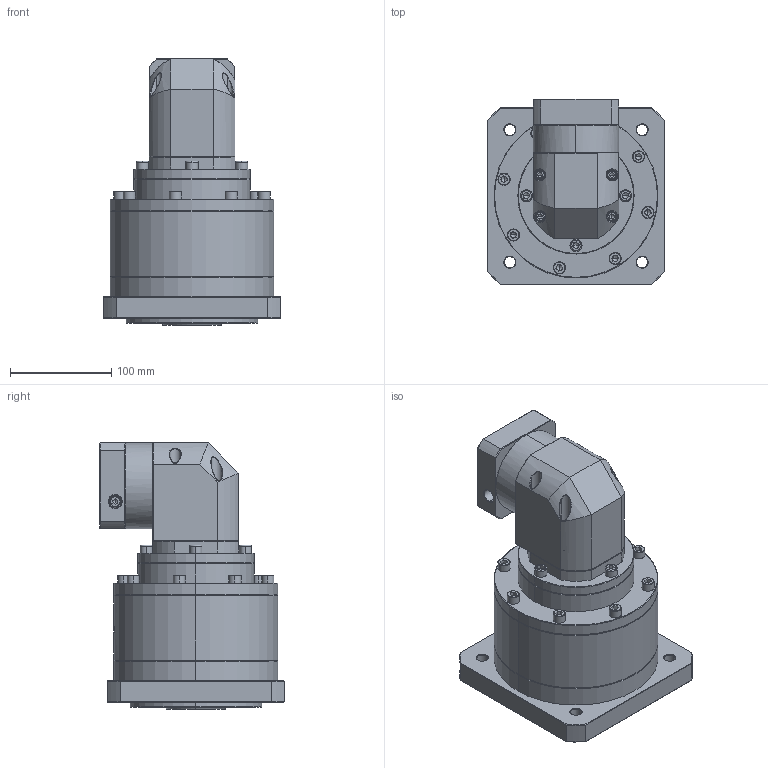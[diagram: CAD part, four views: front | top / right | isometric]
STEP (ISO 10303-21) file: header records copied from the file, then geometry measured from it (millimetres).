
FILE_DESCRIPTION (( 'STEP AP214' ), '1' );
FILE_NAME ('ZFR160A-K35-L3-P2-12.7-73-69.6X69.6-M6.step', '2023-09-03T10:05:43', ( '' ), ( '' ), 'SwSTEP 2.0', 'SolidWorks 2016', '' );
FILE_SCHEMA (( 'AUTOMOTIVE_DESIGN' ));
Length unit declared in the file: millimetre
Products named in the file (1): ZFR160A-K35-L3-P2-12.7-73-69.6X69.6-M6
Bounding box: 175 x 182.6 x 263.2 mm (x, y, z)
Volume: 3824362.1 mm3; surface area: 265100.3 mm2
Topology: 6 solids, 6 shells, 2541 faces, 6620 edges, 4206 vertices
Faces by surface type: plane 1233, cylinder 481, bspline 414, cone 355, torus 58
Entity records: 132253 total; most frequent: CARTESIAN_POINT 47195, ORIENTED_EDGE 13104, DIRECTION 10156, EDGE_CURVE 6552, VERTEX_POINT 4206, LINE 3560, VECTOR 3560, AXIS2_PLACEMENT_3D 3298
